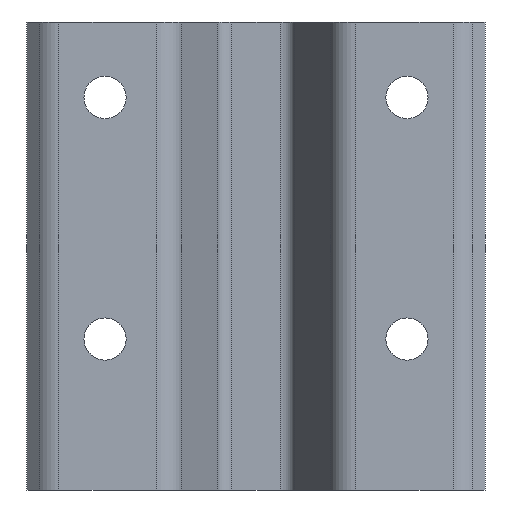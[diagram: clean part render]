
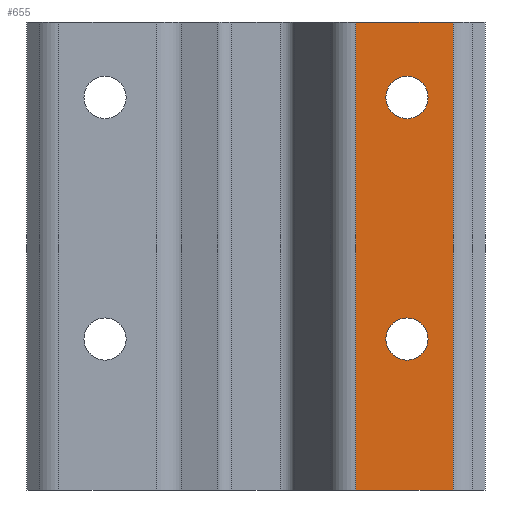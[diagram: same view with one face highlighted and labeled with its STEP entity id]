
A CAD part, front view. The second image highlights one B-rep face of the part: STEP entity #655.
In plain terms, the highlighted planar face has unit normal (0, -1, 0).
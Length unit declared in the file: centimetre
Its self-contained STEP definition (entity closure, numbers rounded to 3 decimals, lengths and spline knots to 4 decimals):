
#18=FACE_BOUND('',#88,.T.);
#19=FACE_BOUND('',#89,.T.);
#29=PLANE('',#701);
#51=FACE_OUTER_BOUND('',#87,.T.);
#87=EDGE_LOOP('',(#476,#477,#478,#479));
#88=EDGE_LOOP('',(#480));
#89=EDGE_LOOP('',(#481));
#137=LINE('',#1006,#201);
#138=LINE('',#1010,#202);
#139=LINE('',#1012,#203);
#140=LINE('',#1013,#204);
#201=VECTOR('',#805,0.1);
#202=VECTOR('',#810,0.1);
#203=VECTOR('',#811,0.1);
#204=VECTOR('',#812,0.1);
#256=CIRCLE('',#702,0.7);
#257=CIRCLE('',#703,0.7);
#298=VERTEX_POINT('',#1003);
#299=VERTEX_POINT('',#1005);
#300=VERTEX_POINT('',#1009);
#301=VERTEX_POINT('',#1011);
#302=VERTEX_POINT('',#1014);
#303=VERTEX_POINT('',#1016);
#370=EDGE_CURVE('',#299,#298,#137,.T.);
#372=EDGE_CURVE('',#298,#300,#138,.T.);
#373=EDGE_CURVE('',#301,#300,#139,.T.);
#374=EDGE_CURVE('',#301,#299,#140,.T.);
#375=EDGE_CURVE('',#302,#302,#256,.T.);
#376=EDGE_CURVE('',#303,#303,#257,.T.);
#476=ORIENTED_EDGE('',*,*,#372,.T.);
#477=ORIENTED_EDGE('',*,*,#373,.F.);
#478=ORIENTED_EDGE('',*,*,#374,.T.);
#479=ORIENTED_EDGE('',*,*,#370,.T.);
#480=ORIENTED_EDGE('',*,*,#375,.T.);
#481=ORIENTED_EDGE('',*,*,#376,.T.);
#655=ADVANCED_FACE('',(#51,#18,#19),#29,.T.);
#701=AXIS2_PLACEMENT_3D('',#1008,#808,#809);
#702=AXIS2_PLACEMENT_3D('',#1015,#813,#814);
#703=AXIS2_PLACEMENT_3D('',#1017,#815,#816);
#805=DIRECTION('',(0.,0.,1.));
#808=DIRECTION('center_axis',(0.,-1.,0.));
#809=DIRECTION('ref_axis',(1.,0.,0.));
#810=DIRECTION('',(-1.,0.,0.));
#811=DIRECTION('',(0.,0.,1.));
#812=DIRECTION('',(1.,0.,0.));
#813=DIRECTION('center_axis',(0.,1.,0.));
#814=DIRECTION('ref_axis',(1.,0.,0.));
#815=DIRECTION('center_axis',(0.,1.,0.));
#816=DIRECTION('ref_axis',(1.,0.,0.));
#1003=CARTESIAN_POINT('',(10.5294,35.6396,15.5));
#1005=CARTESIAN_POINT('',(10.5294,35.6396,0.));
#1006=CARTESIAN_POINT('',(10.5294,35.6396,0.));
#1008=CARTESIAN_POINT('Origin',(9.0042,35.6396,4.7));
#1009=CARTESIAN_POINT('',(7.315,35.6396,15.5));
#1010=CARTESIAN_POINT('',(7.315,35.6396,15.5));
#1011=CARTESIAN_POINT('',(7.315,35.6396,0.));
#1012=CARTESIAN_POINT('',(7.315,35.6396,0.));
#1013=CARTESIAN_POINT('',(7.315,35.6396,0.));
#1014=CARTESIAN_POINT('',(8.3042,35.6396,5.));
#1015=CARTESIAN_POINT('Origin',(9.0042,35.6396,5.));
#1016=CARTESIAN_POINT('',(8.3042,35.6396,13.));
#1017=CARTESIAN_POINT('Origin',(9.0042,35.6396,13.));
